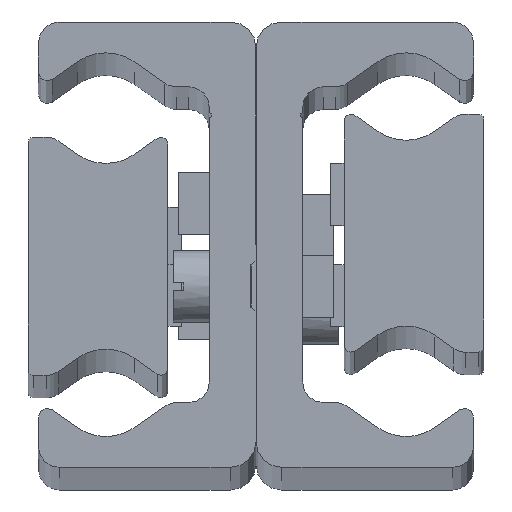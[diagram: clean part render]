
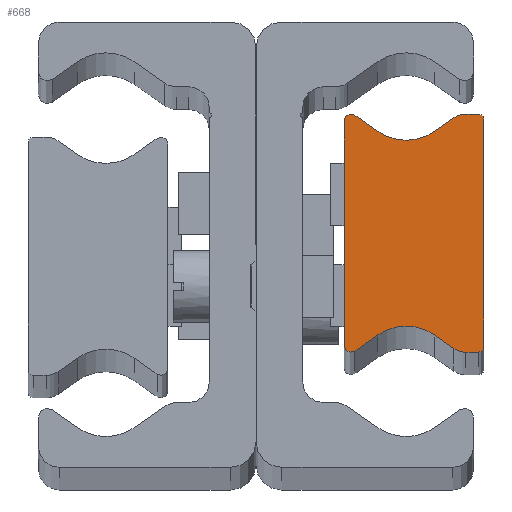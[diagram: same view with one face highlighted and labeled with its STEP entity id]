
A CAD part, top view. The second image highlights one B-rep face of the part: STEP entity #668.
In plain terms, the highlighted planar face has unit normal (0, 0, 1) as drawn and (0, 0, -1) by its records, which use the part's own axes.
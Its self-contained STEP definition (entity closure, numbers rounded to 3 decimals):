
#668 = ADVANCED_FACE( '', ( #1467 ), #1468, .F. );
#1467 = FACE_OUTER_BOUND( '', #2253, .T. );
#1468 = PLANE( '', #2254 );
#2253 = EDGE_LOOP( '', ( #3769, #3770, #3771, #3772, #3773, #3774, #3775, #3776, #3777, #3778, #3779, #3780, #3781, #3782, #3783, #3784 ) );
#2254 = AXIS2_PLACEMENT_3D( '', #3785, #3786, #3787 );
#3769 = ORIENTED_EDGE( '', *, *, #4245, .F. );
#3770 = ORIENTED_EDGE( '', *, *, #3986, .F. );
#3771 = ORIENTED_EDGE( '', *, *, #4455, .F. );
#3772 = ORIENTED_EDGE( '', *, *, #4456, .F. );
#3773 = ORIENTED_EDGE( '', *, *, #3883, .F. );
#3774 = ORIENTED_EDGE( '', *, *, #4383, .T. );
#3775 = ORIENTED_EDGE( '', *, *, #4285, .F. );
#3776 = ORIENTED_EDGE( '', *, *, #4009, .F. );
#3777 = ORIENTED_EDGE( '', *, *, #4190, .F. );
#3778 = ORIENTED_EDGE( '', *, *, #4042, .F. );
#3779 = ORIENTED_EDGE( '', *, *, #4367, .F. );
#3780 = ORIENTED_EDGE( '', *, *, #4434, .T. );
#3781 = ORIENTED_EDGE( '', *, *, #4128, .F. );
#3782 = ORIENTED_EDGE( '', *, *, #4388, .F. );
#3783 = ORIENTED_EDGE( '', *, *, #4358, .F. );
#3784 = ORIENTED_EDGE( '', *, *, #4326, .F. );
#3785 = CARTESIAN_POINT( '', ( 0.5, -11., -1250. ) );
#3786 = DIRECTION( '', ( 0., 0., 1. ) );
#3787 = DIRECTION( '', ( 1., 0., 0. ) );
#3883 = EDGE_CURVE( '', #4475, #4477, #4478, .T. );
#3986 = EDGE_CURVE( '', #4660, #4662, #4663, .T. );
#4009 = EDGE_CURVE( '', #4698, #4700, #4701, .T. );
#4042 = EDGE_CURVE( '', #4756, #4758, #4759, .T. );
#4128 = EDGE_CURVE( '', #4895, #4897, #4898, .T. );
#4190 = EDGE_CURVE( '', #4758, #4698, #4993, .T. );
#4245 = EDGE_CURVE( '', #4662, #5077, #5078, .T. );
#4285 = EDGE_CURVE( '', #4700, #5133, #5134, .T. );
#4326 = EDGE_CURVE( '', #5077, #5191, #5192, .T. );
#4358 = EDGE_CURVE( '', #5191, #5234, #5235, .T. );
#4367 = EDGE_CURVE( '', #5245, #4756, #5247, .T. );
#4383 = EDGE_CURVE( '', #4475, #5133, #5266, .T. );
#4388 = EDGE_CURVE( '', #5234, #4895, #5271, .T. );
#4434 = EDGE_CURVE( '', #5245, #4897, #5327, .T. );
#4455 = EDGE_CURVE( '', #5350, #4660, #5351, .T. );
#4456 = EDGE_CURVE( '', #4477, #5350, #5352, .T. );
#4475 = VERTEX_POINT( '', #5372 );
#4477 = VERTEX_POINT( '', #5375 );
#4478 = LINE( '', #5376, #5377 );
#4660 = VERTEX_POINT( '', #5591 );
#4662 = VERTEX_POINT( '', #5594 );
#4663 = CIRCLE( '', #5595, 0.5 );
#4698 = VERTEX_POINT( '', #5640 );
#4700 = VERTEX_POINT( '', #5643 );
#4701 = CIRCLE( '', #5644, 0.668 );
#4756 = VERTEX_POINT( '', #5710 );
#4758 = VERTEX_POINT( '', #5713 );
#4759 = CIRCLE( '', #5714, 0.668 );
#4895 = VERTEX_POINT( '', #5886 );
#4897 = VERTEX_POINT( '', #5889 );
#4898 = LINE( '', #5890, #5891 );
#4993 = LINE( '', #6007, #6008 );
#5077 = VERTEX_POINT( '', #6106 );
#5078 = LINE( '', #6107, #6108 );
#5133 = VERTEX_POINT( '', #6179 );
#5134 = LINE( '', #6180, #6181 );
#5191 = VERTEX_POINT( '', #6249 );
#5192 = CIRCLE( '', #6250, 0.5 );
#5234 = VERTEX_POINT( '', #6303 );
#5235 = LINE( '', #6304, #6305 );
#5245 = VERTEX_POINT( '', #6317 );
#5247 = LINE( '', #6320, #6321 );
#5266 = CIRCLE( '', #6343, 4.763 );
#5271 = CIRCLE( '', #6348, 2. );
#5327 = CIRCLE( '', #6412, 4.763 );
#5350 = VERTEX_POINT( '', #6439 );
#5351 = LINE( '', #6440, #6441 );
#5352 = CIRCLE( '', #6442, 2. );
#5372 = CARTESIAN_POINT( '', ( 4.768, 9.827, -1250. ) );
#5375 = CARTESIAN_POINT( '', ( 2.895, 11.138, -1250. ) );
#5376 = CARTESIAN_POINT( '', ( 4.768, 9.827, -1250. ) );
#5377 = VECTOR( '', #6461, 1000. );
#5591 = CARTESIAN_POINT( '', ( 0.5, 11.5, -1250. ) );
#5594 = CARTESIAN_POINT( '', ( 0., 11., -1250. ) );
#5595 = AXIS2_PLACEMENT_3D( '', #6645, #6646, #6647 );
#5640 = CARTESIAN_POINT( '', ( 13.5, 10.832, -1250. ) );
#5643 = CARTESIAN_POINT( '', ( 12.449, 11.379, -1250. ) );
#5644 = AXIS2_PLACEMENT_3D( '', #6674, #6675, #6676 );
#5710 = CARTESIAN_POINT( '', ( 12.449, -11.379, -1250. ) );
#5713 = CARTESIAN_POINT( '', ( 13.5, -10.832, -1250. ) );
#5714 = AXIS2_PLACEMENT_3D( '', #6731, #6732, #6733 );
#5886 = CARTESIAN_POINT( '', ( 2.895, -11.138, -1250. ) );
#5889 = CARTESIAN_POINT( '', ( 4.768, -9.827, -1250. ) );
#5890 = CARTESIAN_POINT( '', ( 2.895, -11.138, -1250. ) );
#5891 = VECTOR( '', #6840, 1000. );
#6007 = CARTESIAN_POINT( '', ( 13.5, -10.832, -1250. ) );
#6008 = VECTOR( '', #6931, 1000. );
#6106 = CARTESIAN_POINT( '', ( 0., -11., -1250. ) );
#6107 = CARTESIAN_POINT( '', ( 0., 11., -1250. ) );
#6108 = VECTOR( '', #7015, 1000. );
#6179 = CARTESIAN_POINT( '', ( 10.232, 9.827, -1250. ) );
#6180 = CARTESIAN_POINT( '', ( 12.449, 11.379, -1250. ) );
#6181 = VECTOR( '', #7056, 1000. );
#6249 = CARTESIAN_POINT( '', ( 0.5, -11.5, -1250. ) );
#6250 = AXIS2_PLACEMENT_3D( '', #7104, #7105, #7106 );
#6303 = CARTESIAN_POINT( '', ( 1.748, -11.5, -1250. ) );
#6304 = CARTESIAN_POINT( '', ( 0.5, -11.5, -1250. ) );
#6305 = VECTOR( '', #7145, 1000. );
#6317 = CARTESIAN_POINT( '', ( 10.232, -9.827, -1250. ) );
#6320 = CARTESIAN_POINT( '', ( 10.232, -9.827, -1250. ) );
#6321 = VECTOR( '', #7152, 1000. );
#6343 = AXIS2_PLACEMENT_3D( '', #7165, #7166, #7167 );
#6348 = AXIS2_PLACEMENT_3D( '', #7171, #7172, #7173 );
#6412 = AXIS2_PLACEMENT_3D( '', #7212, #7213, #7214 );
#6439 = CARTESIAN_POINT( '', ( 1.748, 11.5, -1250. ) );
#6440 = CARTESIAN_POINT( '', ( 1.748, 11.5, -1250. ) );
#6441 = VECTOR( '', #7234, 1000. );
#6442 = AXIS2_PLACEMENT_3D( '', #7235, #7236, #7237 );
#6461 = DIRECTION( '', ( -0.819, 0.574, 0. ) );
#6645 = CARTESIAN_POINT( '', ( 0.5, 11., -1250. ) );
#6646 = DIRECTION( '', ( 0., 0., 1. ) );
#6647 = DIRECTION( '', ( 1., 0., 0. ) );
#6674 = CARTESIAN_POINT( '', ( 12.832, 10.832, -1250. ) );
#6675 = DIRECTION( '', ( 0., 0., 1. ) );
#6676 = DIRECTION( '', ( 1., 0., 0. ) );
#6731 = CARTESIAN_POINT( '', ( 12.832, -10.832, -1250. ) );
#6732 = DIRECTION( '', ( 0., 0., 1. ) );
#6733 = DIRECTION( '', ( 1., 0., 0. ) );
#6840 = DIRECTION( '', ( 0.819, 0.574, 0. ) );
#6931 = DIRECTION( '', ( 0., 1., 0. ) );
#7015 = DIRECTION( '', ( 0., -1., 0. ) );
#7056 = DIRECTION( '', ( -0.819, -0.574, 0. ) );
#7104 = CARTESIAN_POINT( '', ( 0.5, -11., -1250. ) );
#7105 = DIRECTION( '', ( 0., 0., 1. ) );
#7106 = DIRECTION( '', ( 1., 0., 0. ) );
#7145 = DIRECTION( '', ( 1., 0., 0. ) );
#7152 = DIRECTION( '', ( 0.819, -0.574, 0. ) );
#7165 = CARTESIAN_POINT( '', ( 7.5, 13.729, -1250. ) );
#7166 = DIRECTION( '', ( 0., 0., 1. ) );
#7167 = DIRECTION( '', ( 1., 0., 0. ) );
#7171 = CARTESIAN_POINT( '', ( 1.748, -9.5, -1250. ) );
#7172 = DIRECTION( '', ( 0., 0., 1. ) );
#7173 = DIRECTION( '', ( 1., 0., 0. ) );
#7212 = CARTESIAN_POINT( '', ( 7.5, -13.729, -1250. ) );
#7213 = DIRECTION( '', ( 0., 0., 1. ) );
#7214 = DIRECTION( '', ( 1., 0., 0. ) );
#7234 = DIRECTION( '', ( -1., 0., 0. ) );
#7235 = CARTESIAN_POINT( '', ( 1.748, 9.5, -1250. ) );
#7236 = DIRECTION( '', ( 0., 0., 1. ) );
#7237 = DIRECTION( '', ( 1., 0., 0. ) );
